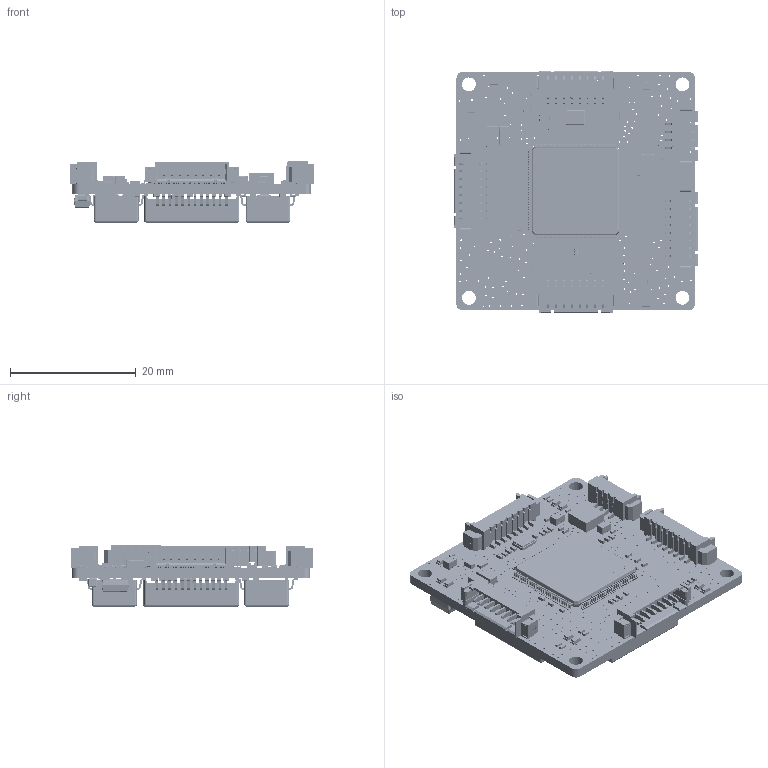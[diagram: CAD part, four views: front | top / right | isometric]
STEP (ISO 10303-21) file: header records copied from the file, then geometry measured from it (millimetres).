
FILE_DESCRIPTION(('Designed by EasyEDA Pro'),'2;1');
FILE_NAME('Open CASCADE Shape Model','2026-06-26T22:24:32',('Author'),( 'Open CASCADE'),'Open CASCADE STEP processor 7.8','Open CASCADE 7.8' ,'Unknown');
FILE_SCHEMA(('AUTOMOTIVE_DESIGN { 1 0 10303 214 1 1 1 1 }'));
Length unit declared in the file: millimetre
Products named in the file (477): EasyEDA PCB Model~G8fj; Board~G8fj; TopCopper~G8fj; BottomCopper~G8fj; TopSilkscreen~G8fj; BottomSilkscreen~G8fj; TopFpcStiffener~G8fj; BottomFpcStiffener~G8fj; 0805-1907~C0805_L2.0-W1.3-H1.3~aCs0; C87~0805-1907~C0805_L2.0-W1.3-H1.3~GRTC; C1~0805-1907~C0805_L2.0-W1.3-H1.3~z8Lp; C29~0805-1907~C0805_L2.0-W1.3-H1.3~AnP6; C30~0805-1907~C0805_L2.0-W1.3-H1.3~Clx6; C4~0805-1907~C0805_L2.0-W1.3-H1.3~8hXC; 1206~C1206_L3.2-W1.6-H1.3~4OZP; PC7~1206~C1206_L3.2-W1.6-H1.3~iEY9; PC1~1206~C1206_L3.2-W1.6-H1.3~9D71; Y-3225-210511~CRYSTAL-SMD_4P-L3.2-W2.5-BL~MwuX; Y~Y-3225-210511~CRYSTAL-SMD_4P-L3.2-W2.5-BL~TCI0; LED-A~LED-0603_G~QW0p; POW~LED-A~LED-0603_G~th1R; PL1~LED-A~LED-0603_G~7WIm; PL2~LED-A~LED-0603_G~Z6dU; PL4~LED-A~LED-0603_G~PVJA; PS1~LED-A~LED-0603_G~RerN; PS2~LED-A~LED-0603_G~noD5; PS3~LED-A~LED-0603_G~ljea; PS4~LED-A~LED-0603_G~fgd7; PL3~LED-A~LED-0603_G~6d3C; SOT-23-6P~SOT-23-6_L2.9-W1.6-P0.95-LS2.8-BL-1~oU3r; U8~SOT-23-6P~SOT-23-6_L2.9-W1.6-P0.95-LS2.8-BL-1~kwUB; NS892407B~SMD-24_L15.1-W7.1-H4.5-P1.00-LS10.0-BL~5rKE; MA0~NS892407B~SMD-24_L15.1-W7.1-H4.5-P1.00-LS10.0-BL~fTls; MA2~NS892407B~SMD-24_L15.1-W7.1-H4.5-P1.00-LS10.0-BL~IDtQ; MA3~NS892407B~SMD-24_L15.1-W7.1-H4.5-P1.00-LS10.0-BL~AyZC; MA5~NS892407B~SMD-24_L15.1-W7.1-H4.5-P1.00-LS10.0-BL~aaer; RTL8367S-211210~TQFP-128_L14.0-W14.0-P0.40-LS16.0-BL-EP9.0~ojPI; U1~RTL8367S-211210~TQFP-128_L14.0-W14.0-P0.40-LS16.0-BL-EP9.0~TBLY; C0402_LY~C0402~4Qdh; C10~C0402_LY~C0402~b9fR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
Assembly tree (555 placements, depth 3):
  EasyEDA PCB Model~G8fj
    Board~G8fj
    TopCopper~G8fj
    BottomCopper~G8fj
    TopSilkscreen~G8fj
      TopSilkscreen~G8fj
      TopSilkscreen~G8fj
      TopSilkscreen~G8fj
      TopSilkscreen~G8fj
      TopSilkscreen~G8fj
      TopSilkscreen~G8fj
      TopSilkscreen~G8fj
      TopSilkscreen~G8fj
      TopSilkscreen~G8fj
      TopSilkscreen~G8fj
      TopSilkscreen~G8fj
      TopSilkscreen~G8fj
      TopSilkscreen~G8fj
      TopSilkscreen~G8fj
      TopSilkscreen~G8fj
      TopSilkscreen~G8fj
      TopSilkscreen~G8fj
      TopSilkscreen~G8fj
      TopSilkscreen~G8fj
      TopSilkscreen~G8fj
      TopSilkscreen~G8fj
      TopSilkscreen~G8fj
      TopSilkscreen~G8fj
      TopSilkscreen~G8fj
      TopSilkscreen~G8fj
      TopSilkscreen~G8fj
      TopSilkscreen~G8fj
      TopSilkscreen~G8fj
      TopSilkscreen~G8fj
      TopSilkscreen~G8fj
      TopSilkscreen~G8fj
      TopSilkscreen~G8fj
      TopSilkscreen~G8fj
      TopSilkscreen~G8fj
      TopSilkscreen~G8fj
      TopSilkscreen~G8fj
      TopSilkscreen~G8fj
      TopSilkscreen~G8fj
      TopSilkscreen~G8fj
      TopSilkscreen~G8fj
      TopSilkscreen~G8fj
      TopSilkscreen~G8fj
      TopSilkscreen~G8fj
      TopSilkscreen~G8fj
      TopSilkscreen~G8fj
      TopSilkscreen~G8fj
      TopSilkscreen~G8fj
      TopSilkscreen~G8fj
      TopSilkscreen~G8fj
      TopSilkscreen~G8fj
      TopSilkscreen~G8fj
      TopSilkscreen~G8fj
      TopSilkscreen~G8fj
      TopSilkscreen~G8fj
      TopSilkscreen~G8fj
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Bounding box: 38.99 x 38.59 x 9.75 mm (x, y, z)
Volume: 4810.4 mm3; surface area: 8706.7 mm2
Topology: 287 solids, 647 shells, 34778 faces, 128671 edges, 96713 vertices
Faces by surface type: plane 20747, bspline 9878, cylinder 3769, sphere 356, cone 16, torus 12
Entity records: 642134 total; most frequent: CARTESIAN_POINT 143991, ORIENTED_EDGE 78407, DIRECTION 71041, EDGE_CURVE 56509, VERTEX_POINT 49199, LINE 48847, VECTOR 48847, AXIS2_PLACEMENT_3D 11097
